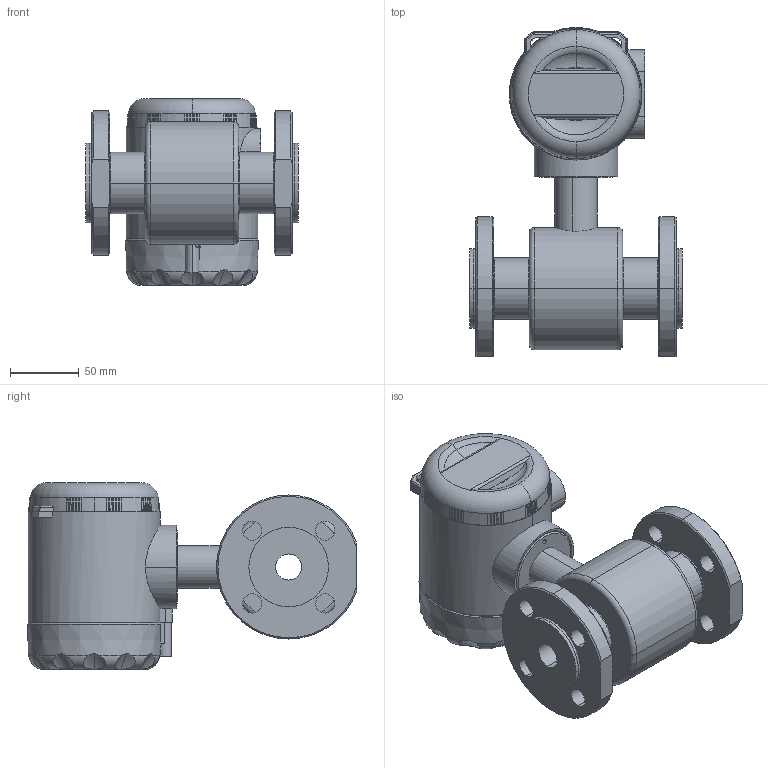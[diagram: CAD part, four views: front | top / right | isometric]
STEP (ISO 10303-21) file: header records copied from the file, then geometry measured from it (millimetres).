
FILE_DESCRIPTION (( 'STEP AP214' ), '1' );
FILE_NAME ('ﾏ頸褞ⅴ ﾏﾐﾎ20.STEP', '2021-07-23T12:48:51', ( '' ), ( '' ), 'SwSTEP 2.0', 'SolidWorks 2016', '' );
FILE_SCHEMA (( 'AUTOMOTIVE_DESIGN' ));
Length unit declared in the file: millimetre
Products named in the file (1): ﾏ頸褞ⅴ ﾏﾐﾎ20
Bounding box: 155 x 239.84 x 135.86 mm (x, y, z)
Surface area: 160206.5 mm2 (no closed solid volume)
Topology: 0 solids, 17 shells, 446 faces, 1436 edges, 974 vertices
Faces by surface type: plane 165, cone 111, cylinder 104, torus 56, bspline 8, sphere 2
Entity records: 22791 total; most frequent: CARTESIAN_POINT 5244, DIRECTION 2760, ORIENTED_EDGE 2431, EDGE_CURVE 1434, AXIS2_PLACEMENT_3D 1061, VERTEX_POINT 974, VECTOR 638, LINE 638
